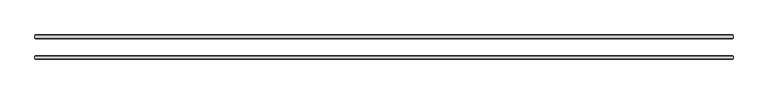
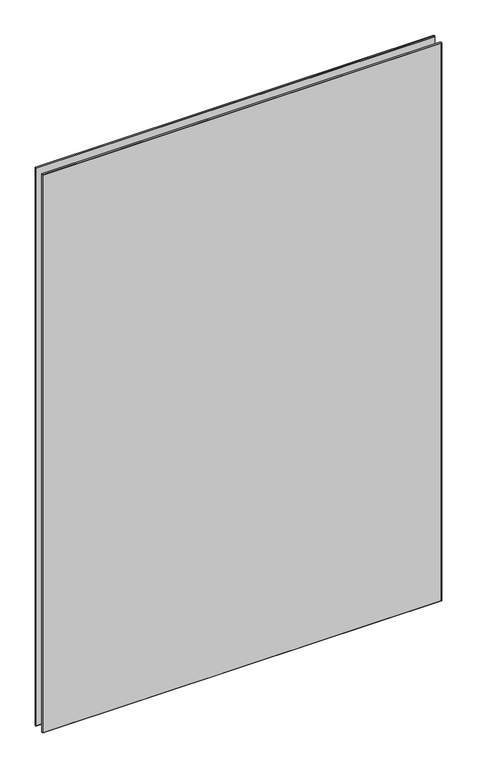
"""IFC4 building model written with IfcOpenShell, lengths in millimetres: plate geometry, 10-AMG-2-Панель двойной витраж10 : Стекло 10mm."""

from ifc_helpers import new_model, si_unit, origin, place, context, project, spatial, faceted_brep, source, transform, mapped, element, save


def plate_55673059(model_context):
    return source(origin(), model_context, "Body", "Brep", [
        faceted_brep([(938.8330578, -31.4961653, 2758.0), (938.8330578, -24.5038347, 2758.0), (-938.8330578, -24.5038347, 2758.0), (-938.8330578, -31.4961653, 2758.0), (938.8330578, -24.5038347, -20.0), (938.8330578, -31.4961653, -20.0), (-938.8330578, -31.4961653, -20.0), (-938.8330578, -24.5038347, -20.0), (-937.3292231, -23.0, 2756.4961653), (937.3292231, -23.0, 2756.4961653), (937.3292231, -23.0, -18.5039422), (-937.3292231, -23.0, -18.5039422), (937.3292231, -33.0, 2756.4961653), (-937.3292231, -33.0, 2756.4961653), (-937.3292231, -33.0, -18.4961653), (937.3292231, -33.0, -18.4961653)], [[[0, 1, 2, 3]], [[4, 5, 6, 7]], [[8, 9, 10, 11]], [[3, 2, 7, 6]], [[12, 13, 14, 15]], [[1, 0, 5, 4]], [[1, 4, 10, 9]], [[5, 0, 12, 15]], [[0, 3, 13, 12]], [[2, 1, 9, 8]], [[7, 2, 8, 11]], [[3, 6, 14, 13]], [[6, 5, 15, 14]], [[4, 7, 11, 10]]]),
        faceted_brep([(938.8330578, 24.5038347, 2758.0), (938.8330578, 31.4961653, 2758.0), (-938.8330578, 31.4961653, 2758.0), (-938.8330578, 24.5038347, 2758.0), (938.8330578, 31.4961653, -20.0), (938.8330578, 24.5038347, -20.0), (-938.8330578, 24.5038347, -20.0), (-938.8330578, 31.4961653, -20.0), (-937.3292231, 33.0, 2756.4961653), (937.3292231, 33.0, 2756.4961653), (937.3292231, 33.0, -18.5039422), (-937.3292231, 33.0, -18.5039422), (937.3292231, 23.0, 2756.4961653), (-937.3292231, 23.0, 2756.4961653), (-937.3292231, 23.0, -18.4961653), (937.3292231, 23.0, -18.4961653)], [[[0, 1, 2, 3]], [[4, 5, 6, 7]], [[8, 9, 10, 11]], [[3, 2, 7, 6]], [[12, 13, 14, 15]], [[1, 0, 5, 4]], [[1, 4, 10, 9]], [[5, 0, 12, 15]], [[7, 2, 8, 11]], [[3, 6, 14, 13]], [[0, 3, 13, 12]], [[2, 1, 9, 8]], [[6, 5, 15, 14]], [[4, 7, 11, 10]]]),
    ])


if __name__ == "__main__":
    model = new_model("IFC4")
    model_context = context("Model", 3, world=origin())
    ifc_project = project(units=[si_unit("LENGTHUNIT", "METRE", prefix="MILLI")], contexts=[model_context])
    site = spatial("IfcSite", under=ifc_project)
    building = spatial("IfcBuilding", under=site)
    placement = place(None, origin())
    plate_shape = plate_55673059(model_context)
    element("IfcPlate", 1, ObjectType="10-AMG-2-Панель двойной витраж10 : Стекло 10mm", at=placement, inside=building, context=model_context, shape_type="MappedRepresentation", body=[
        mapped(plate_shape, transform((0.0, 0.0, 0.0), x_axis=(1.0, 0.0, 0.0), y_axis=(0.0, 1.0, 0.0), z_axis=(0.0, 0.0, 1.0))),
    ])
    save(model, "model.ifc")
